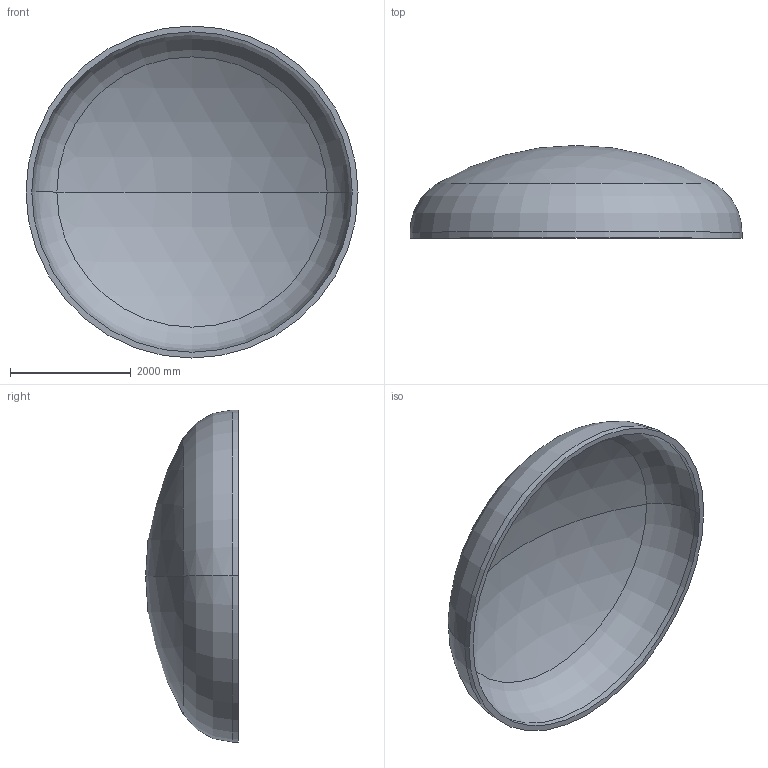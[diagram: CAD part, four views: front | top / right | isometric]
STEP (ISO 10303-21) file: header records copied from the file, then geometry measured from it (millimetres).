
FILE_DESCRIPTION (( 'STEP AP203' ), '1' );
FILE_NAME ('DIN 28013 Korbbogenform_-_Boden DIN 28013 - 5500 x 100 - I - s=96.step', '2016-07-04T10:35:05', ( '' ), ( '' ), 'SwSTEP 2.0', 'SolidWorks 2013', '' );
FILE_SCHEMA (( 'CONFIG_CONTROL_DESIGN' ));
Length unit declared in the file: millimetre
Products named in the file (1): DIN 28013 Korbbogenform_-_Boden DIN 28013 - 5500 x 100 - I - s=96
Bounding box: 5500 x 1535.68 x 5500 mm (x, y, z)
Volume: 3248527585.3 mm3; surface area: 69326743 mm2
Topology: 1 solids, 1 shells, 13 faces, 24 edges, 14 vertices
Faces by surface type: torus 4, cylinder 4, sphere 4, plane 1
Entity records: 407 total; most frequent: DIRECTION 72, CARTESIAN_POINT 52, ORIENTED_EDGE 48, AXIS2_PLACEMENT_3D 34, EDGE_CURVE 24, CIRCLE 20, EDGE_LOOP 14, VERTEX_POINT 14
